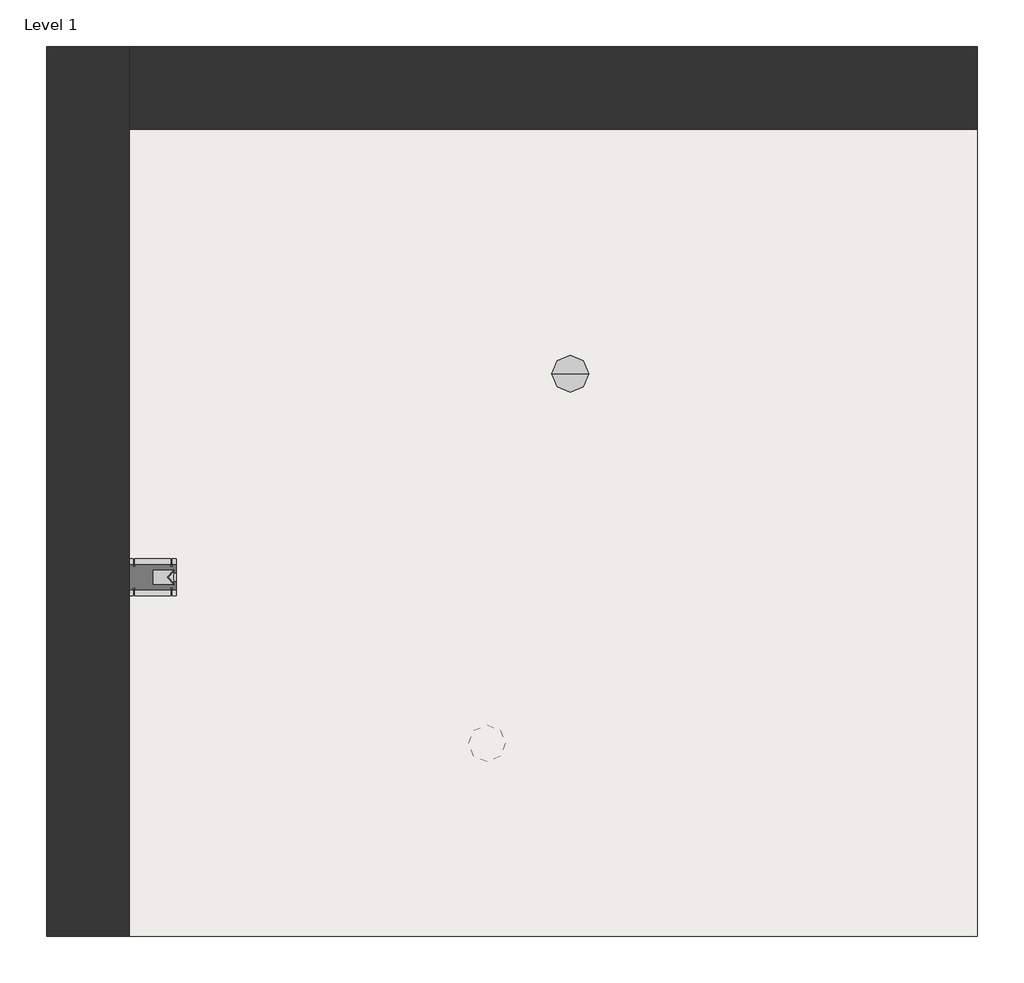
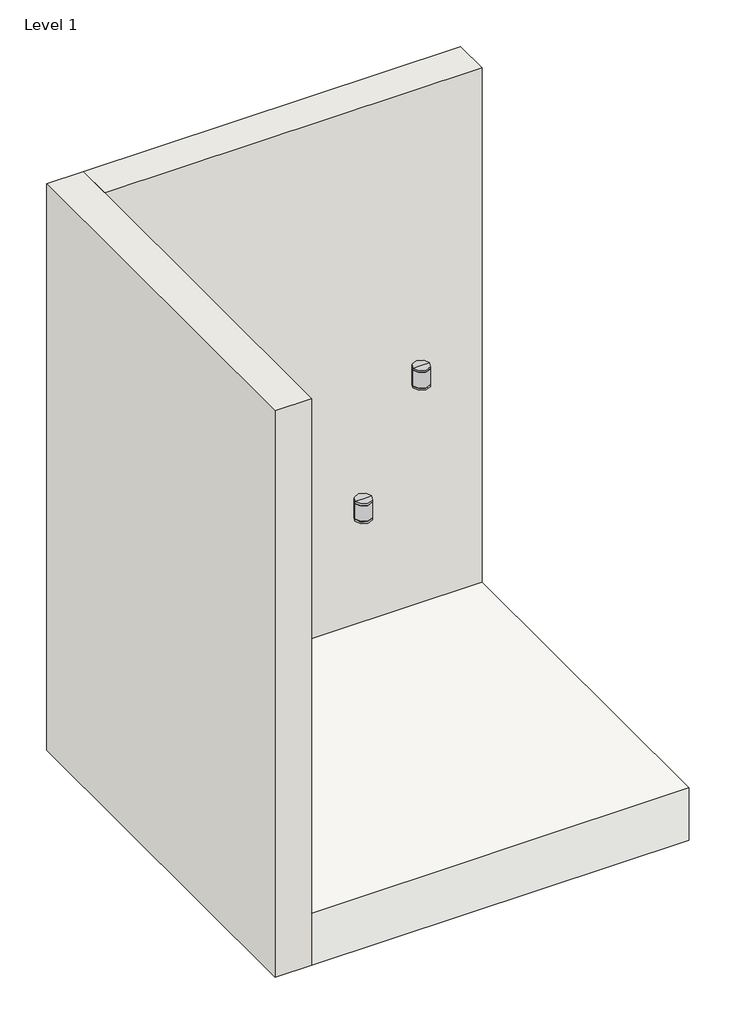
# One storey: 3 light fixtures, 2 walls, 1 slab.
"""IFC4 building model written with IfcOpenShell, lengths in millimetres."""

from ifc_helpers import new_model, si_unit, frame, origin, place, context, project, spatial, polyline, outline, extrude, faceted_brep, transform, mapped, element, save
from components import light_fixture_00b115bc

model = new_model("IFC4")

# Units and contexts
model_context = context("Model", 3, world=origin())
ifc_project = project(units=[si_unit("LENGTHUNIT", "METRE", prefix="MILLI")], contexts=[model_context])

# Site, building, storey
site = spatial("IfcSite", under=ifc_project)
building = spatial("IfcBuilding", under=site)
storey = spatial("IfcBuildingStorey", under=building, Name="Level 1", Elevation=0.0)

# Light fixtures
placement = place(None, origin())
light_fixture_shape = light_fixture_00b115bc(model_context)
element("IfcLightFixture", 1, ObjectType="DL340_ 4 ROUND CEILING DOWNLIGHT_IP65_1000Lm : DL340B-B02-EU-T17-EMAC", at=placement, inside=storey, context=model_context, shape_type="MappedRepresentation", body=[
    mapped(light_fixture_shape, transform((3086.6777316, 2267.5018189, 2600.0), x_axis=(1.0, 0.0, 0.0), y_axis=(0.0, 1.0, 0.0), z_axis=(0.0, 0.0, 1.0))),
])
element("IfcLightFixture", 2, ObjectType="DL340_ 4 ROUND CEILING DOWNLIGHT_IP65_1000Lm : DL340B-B02-EU-T17-EMAC", at=placement, inside=storey, context=model_context, shape_type="MappedRepresentation", body=[
    mapped(light_fixture_shape, transform((2208.2676417, 2641.7404022, 1134.7714181), x_axis=(0.0, 1.0, 0.0), y_axis=(0.0, 0.0, -1.0), z_axis=(-1.0, 0.0, 0.0))),
])
element("IfcLightFixture", 3, ObjectType="DL340_ 4 ROUND CEILING DOWNLIGHT_IP65_1000Lm : DL340B-B02-EU-T17-EMAC", at=placement, inside=storey, context=model_context, shape_type="MappedRepresentation", body=[
    mapped(light_fixture_shape, transform((3291.0676417, 3175.5396904, 1200.0), x_axis=(1.0, 0.0, 0.0), y_axis=(0.0, 1.0, 0.0), z_axis=(0.0, 0.0, 1.0))),
])

# Slab
element("IfcSlab", 4, ObjectType="Floor 1", at=placement, inside=storey, context=model_context, shape_type="SweptSolid", body=[
    extrude(outline(polyline([(4291.0676417, 3741.7404022), (4291.0676417, 1760.5404022), (2208.2676417, 1760.5404022), (2208.2676417, 3741.7404022), (4291.0676417, 3741.7404022)])), frame((0.0, 0.0, -304.8), z_axis=(0.0, 0.0, 1.0), x_axis=(1.0, 0.0, 0.0)), (0.0, 0.0, 1.0), 304.8),
])

# Walls
element("IfcWall", 5, ObjectType="Wall 1", at=placement, inside=storey, context=model_context, shape_type="Brep", body=[
    faceted_brep([(2005.0676417, 3944.9404022, -304.8), (2005.0676417, 1760.5404022, -304.8), (2005.0676417, 1760.5404022, 3000.0), (2005.0676417, 3944.9404022, 3000.0), (2208.2676417, 3944.9404022, -304.8), (2208.2676417, 3944.9404022, 3000.0), (2208.2676417, 3741.7404022, 3000.0), (2208.2676417, 1760.5404022, 3000.0), (2208.2676417, 1760.5404022, -304.8), (2208.2676417, 3741.7404022, -304.8)], [[[0, 1, 2, 3]], [[4, 5, 6, 7, 8, 9]], [[1, 0, 4, 9, 8]], [[2, 1, 8, 7]], [[3, 2, 7, 6, 5]], [[0, 3, 5, 4]]]),
])
element("IfcWall", 6, ObjectType="Wall 1", at=placement, inside=storey, context=model_context, shape_type="SweptSolid", body=[
    extrude(outline(polyline([(4291.0676417, 3741.7404022), (2208.2676417, 3741.7404022), (2208.2676417, 3944.9404022), (4291.0676417, 3944.9404022), (4291.0676417, 3741.7404022)])), frame((0.0, 0.0, -304.8), z_axis=(0.0, 0.0, 1.0), x_axis=(1.0, 0.0, 0.0)), (0.0, 0.0, 1.0), 3304.8),
])

save(model, "model.ifc")
